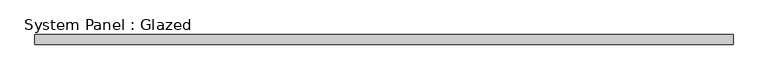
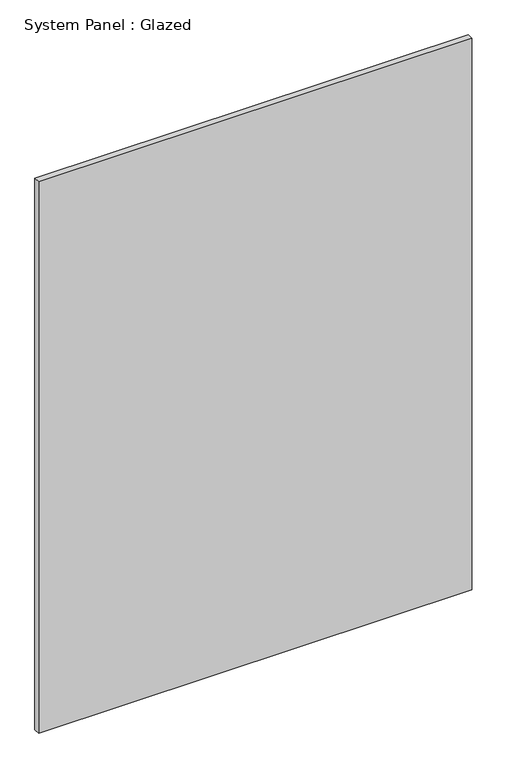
"""IFC4 building model written with IfcOpenShell, lengths in millimetres: plate geometry, System Panel : Glazed."""

from ifc_helpers import new_model, si_unit, origin, origin_with_axes, place, context, project, spatial, polyline, outline, extrude, source, transform, mapped, element, save


def system_panel_glazed_14c75400(model_context):
    return source(origin(), model_context, "Body", "SweptSolid", [
        extrude(outline(polyline([(882.65, 19.05), (-882.65, 19.05), (-882.65, 44.45), (882.65, 44.45), (882.65, 19.05)])), origin_with_axes(), (0.0, 0.0, 1.0), 2374.9),
    ])


if __name__ == "__main__":
    model = new_model("IFC4")
    model_context = context("Model", 3, world=origin())
    ifc_project = project(units=[si_unit("LENGTHUNIT", "METRE", prefix="MILLI")], contexts=[model_context])
    site = spatial("IfcSite", under=ifc_project)
    building = spatial("IfcBuilding", under=site)
    placement = place(None, origin())
    system_panel_glazed_shape = system_panel_glazed_14c75400(model_context)
    element("IfcPlate", 1, ObjectType="System Panel : Glazed", at=placement, inside=building, context=model_context, shape_type="MappedRepresentation", body=[
        mapped(system_panel_glazed_shape, transform((0.0, 0.0, 0.0), x_axis=(1.0, 0.0, 0.0), y_axis=(0.0, 1.0, 0.0), z_axis=(0.0, 0.0, 1.0))),
    ])
    save(model, "model.ifc")
